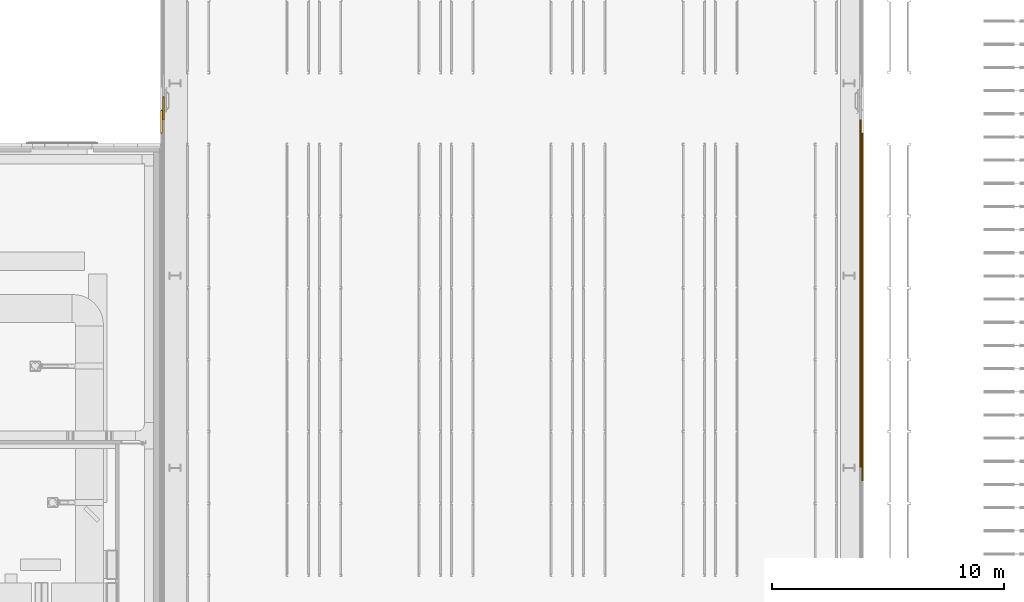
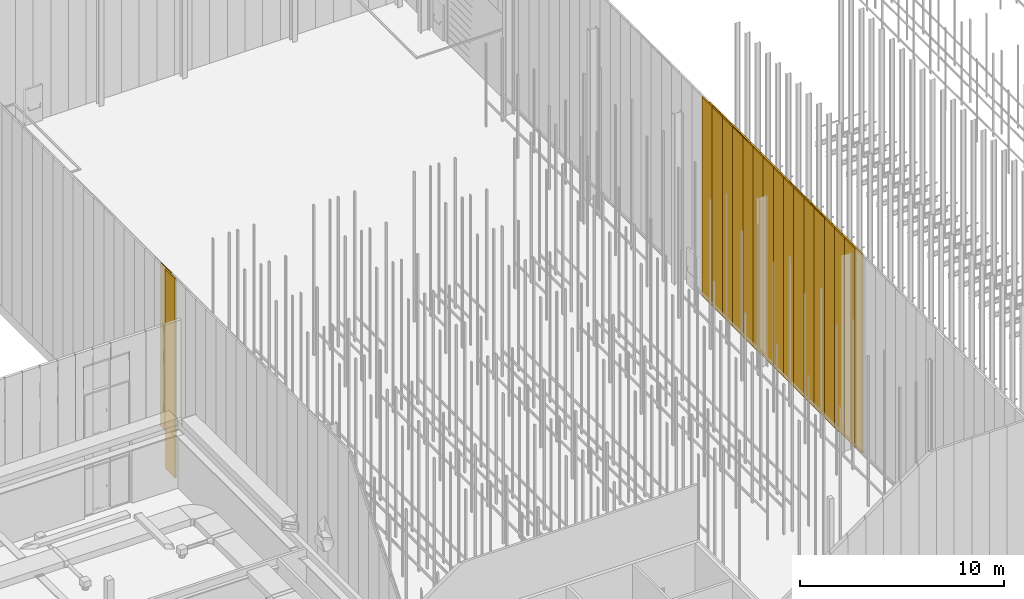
# One storey, part 241 of 302: 32 curtain walls, 2 openings, 4 elements without a shape of their own.
"""IFC2X3 building model written with IfcOpenShell, lengths in metres."""

from ifc_helpers import new_model, entity, si_unit, converted_unit, derived_unit, direction, frame, frame_2d, origin, origin_2d_with_axis, place, context, subcontext, project, spatial, rectangle, extrude, material, layer, layer_set, layer_usage, type_object, element, aggregate, save


model = new_model("IFC2X3")

# Units and contexts
model_context = context("Model", 3, precision=1e-05, world=origin(), true_north=direction((6.12303176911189e-17, 1.0)))
body_context = subcontext(model_context, "Body", "Model", "MODEL_VIEW")
ifc_project = project(units=[si_unit("LENGTHUNIT", "METRE"), si_unit("AREAUNIT", "SQUARE_METRE"), si_unit("VOLUMEUNIT", "CUBIC_METRE"), converted_unit("PLANEANGLEUNIT", "DEGREE", entity("IfcRatioMeasure", 0.0174532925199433), si_unit("PLANEANGLEUNIT", "RADIAN"), dimensions=[0, 0, 0, 0, 0, 0, 0]), si_unit("MASSUNIT", "GRAM", prefix="KILO"), derived_unit("MASSDENSITYUNIT", [(si_unit("MASSUNIT", "GRAM", prefix="KILO"), 1), (si_unit("LENGTHUNIT", "METRE"), -3)]), derived_unit("MOMENTOFINERTIAUNIT", [(si_unit("LENGTHUNIT", "METRE"), 4)]), si_unit("TIMEUNIT", "SECOND"), si_unit("FREQUENCYUNIT", "HERTZ"), si_unit("THERMODYNAMICTEMPERATUREUNIT", "DEGREE_CELSIUS"), derived_unit("THERMALTRANSMITTANCEUNIT", [(si_unit("MASSUNIT", "GRAM", prefix="KILO"), 1), (si_unit("THERMODYNAMICTEMPERATUREUNIT", "KELVIN"), -1), (si_unit("TIMEUNIT", "SECOND"), -3)]), derived_unit("VOLUMETRICFLOWRATEUNIT", [(si_unit("LENGTHUNIT", "METRE"), 3), (si_unit("TIMEUNIT", "SECOND"), -1)]), si_unit("ELECTRICCURRENTUNIT", "AMPERE"), si_unit("ELECTRICVOLTAGEUNIT", "VOLT"), si_unit("POWERUNIT", "WATT"), si_unit("FORCEUNIT", "NEWTON", prefix="KILO"), si_unit("ILLUMINANCEUNIT", "LUX"), si_unit("LUMINOUSFLUXUNIT", "LUMEN"), si_unit("LUMINOUSINTENSITYUNIT", "CANDELA"), derived_unit("USERDEFINED", [(si_unit("MASSUNIT", "GRAM", prefix="KILO"), -1), (si_unit("LENGTHUNIT", "METRE"), -2), (si_unit("TIMEUNIT", "SECOND"), 3), (si_unit("LUMINOUSFLUXUNIT", "LUMEN"), 1)]), derived_unit("LINEARVELOCITYUNIT", [(si_unit("LENGTHUNIT", "METRE"), 1), (si_unit("TIMEUNIT", "SECOND"), -1)]), si_unit("PRESSUREUNIT", "PASCAL"), derived_unit("USERDEFINED", [(si_unit("LENGTHUNIT", "METRE"), -2), (si_unit("MASSUNIT", "GRAM", prefix="KILO"), 1), (si_unit("TIMEUNIT", "SECOND"), -2)]), derived_unit("LINEARFORCEUNIT", [(si_unit("MASSUNIT", "GRAM", prefix="KILO"), 1), (si_unit("LENGTHUNIT", "METRE"), 1), (si_unit("TIMEUNIT", "SECOND"), -2), (si_unit("LENGTHUNIT", "METRE"), -1)]), derived_unit("PLANARFORCEUNIT", [(si_unit("MASSUNIT", "GRAM", prefix="KILO"), 1), (si_unit("LENGTHUNIT", "METRE"), 1), (si_unit("TIMEUNIT", "SECOND"), -2), (si_unit("LENGTHUNIT", "METRE"), -2)])], contexts=[model_context])

# Site, building, storey
site_placement = place(None, origin())
site = spatial("IfcSite", under=ifc_project, at=site_placement, Name="Default", CompositionType="ELEMENT")
building_placement = place(site_placement, origin())
building = spatial("IfcBuilding", under=site, at=building_placement, CompositionType="ELEMENT")
storey_placement = place(building_placement, frame((0.0, 0.0, -1.3)))
storey = spatial("IfcBuildingStorey", under=building, at=storey_placement, Name="00_EG", CompositionType="ELEMENT", Elevation=-1.3)

# Curtain walls, opening
curtain_wall_type_1 = type_object("IfcCurtainWallType", PredefinedType="NOTDEFINED")
curtain_wall_1_placement = place(storey_placement, frame((0.0, 0.0, 1.3)))
curtain_wall_1 = element("IfcCurtainWall", 1, at=curtain_wall_1_placement, inside=storey, type_object=curtain_wall_type_1)
ifc_material_1 = material(Name="Prepainted_Steel-ArcelorMittal_Construction_HAIRULTRA-35-CORAL-4309-[RAL_3000]")
ifc_layer_1 = layer(ifc_material_1, 0.01)
ifc_material_2 = material(Name="ArcelorMittal-MineralWool")
ifc_layer_2 = layer(ifc_material_2, 0.06)
ifc_layer_3 = layer(ifc_material_1, 0.01)
ifc_layer_set_1 = layer_set([ifc_layer_1, ifc_layer_2, ifc_layer_3], Name="Fassade:Sandwichpaneele Gebäude B 80mm")
ifc_layer_usage_1 = layer_usage(ifc_layer_set_1, "AXIS2", "NEGATIVE", 0.04)
curtain_wall_type_2 = type_object("IfcCurtainWallType", Name="Basiswand:Sandwichpaneele d = 8cm aussen", PredefinedType="NOTDEFINED", material=ifc_layer_set_1)
curtain_wall_2_placement = place(storey_placement, frame((-207.570111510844, 47.1680889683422, 1.27), z_axis=(0.0, 0.0, 1.0), x_axis=(0.0, -1.0, 0.0)))
curtain_wall_2 = element("IfcCurtainWall", 2, at=curtain_wall_2_placement, type_object=curtain_wall_type_2, material=ifc_layer_usage_1, Name="Basiswand:Sandwichpaneele d = 8cm aussen", ObjectType="Basiswand:Sandwichpaneele d = 8cm aussen", context=body_context, shape_type="SweptSolid", body=[
    extrude(rectangle(XDim=0.999999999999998, YDim=0.0799999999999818, at=frame_2d((0.499999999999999, 0.0), x_axis=(-1.0, 0.0))), origin(), (0.0, 0.0, 1.0), 11.9314),
])
opening_1_placement = place(curtain_wall_2_placement, origin())
opening_1 = element("IfcOpeningElement", 3, at=opening_1_placement, cuts=curtain_wall_2, Name="Basiswand:Sandwichpaneele d = 8cm aussen", ObjectType="Opening", context=body_context, shape_type="SweptSolid", body=[
    extrude(rectangle(XDim=2.16999999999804, YDim=0.979999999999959, at=frame_2d((-5.55111512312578e-16, 2.60069743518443e-14), x_axis=(1.0, 0.0))), frame((-0.410000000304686, -0.0400000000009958, 1.054999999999), z_axis=(0.0, 1.0, 0.0), x_axis=(0.0, 0.0, -1.0)), (0.0, 0.0, 1.0), 0.169999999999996),
])
aggregate(curtain_wall_1, [curtain_wall_2, opening_1])

# Curtain walls
curtain_wall_3_placement = place(storey_placement, frame((0.0, 0.0, 1.3)))
curtain_wall_3 = element("IfcCurtainWall", 4, at=curtain_wall_3_placement, inside=storey, type_object=curtain_wall_type_1)
ifc_layer_usage_2 = layer_usage(ifc_layer_set_1, "AXIS2", "POSITIVE", -0.04)
curtain_wall_4_placement = place(storey_placement, frame((-177.310111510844, 46.1680889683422, 1.27), z_axis=(0.0, 0.0, 1.0), x_axis=(0.0, -1.0, 0.0)))
curtain_wall_4 = element("IfcCurtainWall", 5, at=curtain_wall_4_placement, type_object=curtain_wall_type_2, material=ifc_layer_usage_2, Name="Basiswand:Sandwichpaneele d = 8cm aussen", ObjectType="Basiswand:Sandwichpaneele d = 8cm aussen", context=body_context, shape_type="SweptSolid", body=[
    extrude(rectangle(XDim=0.999999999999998, YDim=0.0799999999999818, at=frame_2d((0.499999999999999, 0.0), x_axis=(-1.0, 0.0))), origin(), (0.0, 0.0, 1.0), 11.9314),
])
ifc_layer_usage_3 = layer_usage(ifc_layer_set_1, "AXIS2", "POSITIVE", -0.04)
curtain_wall_5_placement = place(storey_placement, frame((-177.310111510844, 45.1680889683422, 1.27), z_axis=(0.0, 0.0, 1.0), x_axis=(0.0, -1.0, 0.0)))
curtain_wall_5 = element("IfcCurtainWall", 6, at=curtain_wall_5_placement, type_object=curtain_wall_type_2, material=ifc_layer_usage_3, Name="Basiswand:Sandwichpaneele d = 8cm aussen", ObjectType="Basiswand:Sandwichpaneele d = 8cm aussen", context=body_context, shape_type="SweptSolid", body=[
    extrude(rectangle(XDim=0.999999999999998, YDim=0.0799999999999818, at=frame_2d((0.499999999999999, 0.0), x_axis=(-1.0, 0.0))), origin(), (0.0, 0.0, 1.0), 11.9314),
])
ifc_layer_usage_4 = layer_usage(ifc_layer_set_1, "AXIS2", "POSITIVE", -0.04)
curtain_wall_6_placement = place(storey_placement, frame((-177.310111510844, 44.1680889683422, 1.27), z_axis=(0.0, 0.0, 1.0), x_axis=(0.0, -1.0, 0.0)))
curtain_wall_6 = element("IfcCurtainWall", 7, at=curtain_wall_6_placement, type_object=curtain_wall_type_2, material=ifc_layer_usage_4, Name="Basiswand:Sandwichpaneele d = 8cm aussen", ObjectType="Basiswand:Sandwichpaneele d = 8cm aussen", context=body_context, shape_type="SweptSolid", body=[
    extrude(rectangle(XDim=0.999999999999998, YDim=0.0799999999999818, at=frame_2d((0.499999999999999, 0.0), x_axis=(-1.0, 0.0))), origin(), (0.0, 0.0, 1.0), 11.9314),
])
ifc_layer_usage_5 = layer_usage(ifc_layer_set_1, "AXIS2", "POSITIVE", -0.04)
curtain_wall_7_placement = place(storey_placement, frame((-177.310111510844, 43.1680889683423, 1.27), z_axis=(0.0, 0.0, 1.0), x_axis=(0.0, -1.0, 0.0)))
curtain_wall_7 = element("IfcCurtainWall", 8, at=curtain_wall_7_placement, type_object=curtain_wall_type_2, material=ifc_layer_usage_5, Name="Basiswand:Sandwichpaneele d = 8cm aussen", ObjectType="Basiswand:Sandwichpaneele d = 8cm aussen", context=body_context, shape_type="SweptSolid", body=[
    extrude(rectangle(XDim=0.999999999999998, YDim=0.0799999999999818, at=frame_2d((0.499999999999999, 0.0), x_axis=(-1.0, 0.0))), origin(), (0.0, 0.0, 1.0), 11.9314),
])
ifc_layer_usage_6 = layer_usage(ifc_layer_set_1, "AXIS2", "POSITIVE", -0.04)
curtain_wall_8_placement = place(storey_placement, frame((-177.310111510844, 42.1680889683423, 1.27), z_axis=(0.0, 0.0, 1.0), x_axis=(0.0, -1.0, 0.0)))
curtain_wall_8 = element("IfcCurtainWall", 9, at=curtain_wall_8_placement, type_object=curtain_wall_type_2, material=ifc_layer_usage_6, Name="Basiswand:Sandwichpaneele d = 8cm aussen", ObjectType="Basiswand:Sandwichpaneele d = 8cm aussen", context=body_context, shape_type="SweptSolid", body=[
    extrude(rectangle(XDim=1.00000000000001, YDim=0.0799999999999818, at=frame_2d((0.500000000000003, 0.0), x_axis=(-1.0, 0.0))), origin(), (0.0, 0.0, 1.0), 11.9314),
])
ifc_layer_usage_7 = layer_usage(ifc_layer_set_1, "AXIS2", "POSITIVE", -0.04)
curtain_wall_9_placement = place(storey_placement, frame((-177.310111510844, 41.1680889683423, 1.27), z_axis=(0.0, 0.0, 1.0), x_axis=(0.0, -1.0, 0.0)))
curtain_wall_9 = element("IfcCurtainWall", 10, at=curtain_wall_9_placement, type_object=curtain_wall_type_2, material=ifc_layer_usage_7, Name="Basiswand:Sandwichpaneele d = 8cm aussen", ObjectType="Basiswand:Sandwichpaneele d = 8cm aussen", context=body_context, shape_type="SweptSolid", body=[
    extrude(rectangle(XDim=0.999999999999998, YDim=0.0799999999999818, at=frame_2d((0.499999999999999, 0.0), x_axis=(-1.0, 0.0))), origin(), (0.0, 0.0, 1.0), 11.9314),
])
ifc_layer_usage_8 = layer_usage(ifc_layer_set_1, "AXIS2", "POSITIVE", -0.04)
curtain_wall_10_placement = place(storey_placement, frame((-177.310111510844, 40.1680889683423, 1.27), z_axis=(0.0, 0.0, 1.0), x_axis=(0.0, -1.0, 0.0)))
curtain_wall_10 = element("IfcCurtainWall", 11, at=curtain_wall_10_placement, type_object=curtain_wall_type_2, material=ifc_layer_usage_8, Name="Basiswand:Sandwichpaneele d = 8cm aussen", ObjectType="Basiswand:Sandwichpaneele d = 8cm aussen", context=body_context, shape_type="SweptSolid", body=[
    extrude(rectangle(XDim=0.999999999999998, YDim=0.0799999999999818, at=frame_2d((0.499999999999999, 0.0), x_axis=(-1.0, 0.0))), origin(), (0.0, 0.0, 1.0), 11.9314),
])
ifc_layer_usage_9 = layer_usage(ifc_layer_set_1, "AXIS2", "POSITIVE", -0.04)
curtain_wall_11_placement = place(storey_placement, frame((-177.310111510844, 39.1680889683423, 1.27), z_axis=(0.0, 0.0, 1.0), x_axis=(0.0, -1.0, 0.0)))
curtain_wall_11 = element("IfcCurtainWall", 12, at=curtain_wall_11_placement, type_object=curtain_wall_type_2, material=ifc_layer_usage_9, Name="Basiswand:Sandwichpaneele d = 8cm aussen", ObjectType="Basiswand:Sandwichpaneele d = 8cm aussen", context=body_context, shape_type="SweptSolid", body=[
    extrude(rectangle(XDim=0.999999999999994, YDim=0.0799999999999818, at=frame_2d((0.499999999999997, 0.0), x_axis=(-1.0, 0.0))), origin(), (0.0, 0.0, 1.0), 11.9314),
])
ifc_layer_usage_10 = layer_usage(ifc_layer_set_1, "AXIS2", "POSITIVE", -0.04)
curtain_wall_12_placement = place(storey_placement, frame((-177.310111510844, 38.1680889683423, 1.27), z_axis=(0.0, 0.0, 1.0), x_axis=(0.0, -1.0, 0.0)))
curtain_wall_12 = element("IfcCurtainWall", 13, at=curtain_wall_12_placement, type_object=curtain_wall_type_2, material=ifc_layer_usage_10, Name="Basiswand:Sandwichpaneele d = 8cm aussen", ObjectType="Basiswand:Sandwichpaneele d = 8cm aussen", context=body_context, shape_type="SweptSolid", body=[
    extrude(rectangle(XDim=1.0, YDim=0.0799999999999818, at=frame_2d((0.500000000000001, 0.0), x_axis=(-1.0, 0.0))), origin(), (0.0, 0.0, 1.0), 11.9314),
])
ifc_layer_usage_11 = layer_usage(ifc_layer_set_1, "AXIS2", "POSITIVE", -0.04)
curtain_wall_13_placement = place(storey_placement, frame((-177.310111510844, 37.1680889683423, 1.27), z_axis=(0.0, 0.0, 1.0), x_axis=(0.0, -1.0, 0.0)))
curtain_wall_13 = element("IfcCurtainWall", 14, at=curtain_wall_13_placement, type_object=curtain_wall_type_2, material=ifc_layer_usage_11, Name="Basiswand:Sandwichpaneele d = 8cm aussen", ObjectType="Basiswand:Sandwichpaneele d = 8cm aussen", context=body_context, shape_type="SweptSolid", body=[
    extrude(rectangle(XDim=1.0, YDim=0.0799999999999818, at=frame_2d((0.500000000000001, 0.0), x_axis=(-1.0, 0.0))), origin(), (0.0, 0.0, 1.0), 11.9314),
])
ifc_layer_usage_12 = layer_usage(ifc_layer_set_1, "AXIS2", "POSITIVE", -0.04)
curtain_wall_14_placement = place(storey_placement, frame((-177.310111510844, 36.1680889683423, 1.27), z_axis=(0.0, 0.0, 1.0), x_axis=(0.0, -1.0, 0.0)))
curtain_wall_14 = element("IfcCurtainWall", 15, at=curtain_wall_14_placement, type_object=curtain_wall_type_2, material=ifc_layer_usage_12, Name="Basiswand:Sandwichpaneele d = 8cm aussen", ObjectType="Basiswand:Sandwichpaneele d = 8cm aussen", context=body_context, shape_type="SweptSolid", body=[
    extrude(rectangle(XDim=0.999999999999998, YDim=0.0799999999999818, at=frame_2d((0.499999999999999, 0.0), x_axis=(-1.0, 0.0))), origin(), (0.0, 0.0, 1.0), 11.9314),
])
ifc_layer_usage_13 = layer_usage(ifc_layer_set_1, "AXIS2", "POSITIVE", -0.04)
curtain_wall_15_placement = place(storey_placement, frame((-177.310111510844, 35.1680889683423, 1.27), z_axis=(0.0, 0.0, 1.0), x_axis=(0.0, -1.0, 0.0)))
curtain_wall_15 = element("IfcCurtainWall", 16, at=curtain_wall_15_placement, type_object=curtain_wall_type_2, material=ifc_layer_usage_13, Name="Basiswand:Sandwichpaneele d = 8cm aussen", ObjectType="Basiswand:Sandwichpaneele d = 8cm aussen", context=body_context, shape_type="SweptSolid", body=[
    extrude(rectangle(XDim=0.999999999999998, YDim=0.0799999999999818, at=frame_2d((0.499999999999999, 0.0), x_axis=(-1.0, 0.0))), origin(), (0.0, 0.0, 1.0), 11.9314),
])
ifc_layer_usage_14 = layer_usage(ifc_layer_set_1, "AXIS2", "POSITIVE", -0.04)
curtain_wall_16_placement = place(storey_placement, frame((-177.310111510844, 34.1680889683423, 1.27), z_axis=(0.0, 0.0, 1.0), x_axis=(0.0, -1.0, 0.0)))
curtain_wall_16 = element("IfcCurtainWall", 17, at=curtain_wall_16_placement, type_object=curtain_wall_type_2, material=ifc_layer_usage_14, Name="Basiswand:Sandwichpaneele d = 8cm aussen", ObjectType="Basiswand:Sandwichpaneele d = 8cm aussen", context=body_context, shape_type="SweptSolid", body=[
    extrude(rectangle(XDim=0.999999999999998, YDim=0.0799999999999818, at=frame_2d((0.499999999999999, 0.0), x_axis=(-1.0, 0.0))), origin(), (0.0, 0.0, 1.0), 11.9314),
])
ifc_layer_usage_15 = layer_usage(ifc_layer_set_1, "AXIS2", "POSITIVE", -0.04)
curtain_wall_17_placement = place(storey_placement, frame((-177.310111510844, 33.1680889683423, 1.27), z_axis=(0.0, 0.0, 1.0), x_axis=(0.0, -1.0, 0.0)))
curtain_wall_17 = element("IfcCurtainWall", 18, at=curtain_wall_17_placement, type_object=curtain_wall_type_2, material=ifc_layer_usage_15, Name="Basiswand:Sandwichpaneele d = 8cm aussen", ObjectType="Basiswand:Sandwichpaneele d = 8cm aussen", context=body_context, shape_type="SweptSolid", body=[
    extrude(rectangle(XDim=0.999999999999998, YDim=0.0799999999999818, at=frame_2d((0.499999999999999, 0.0), x_axis=(-1.0, 0.0))), origin(), (0.0, 0.0, 1.0), 11.9314),
])
ifc_layer_usage_16 = layer_usage(ifc_layer_set_1, "AXIS2", "POSITIVE", -0.04)
curtain_wall_18_placement = place(storey_placement, frame((-177.310111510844, 32.1680889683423, 1.27), z_axis=(0.0, 0.0, 1.0), x_axis=(0.0, -1.0, 0.0)))
curtain_wall_18 = element("IfcCurtainWall", 19, at=curtain_wall_18_placement, type_object=curtain_wall_type_2, material=ifc_layer_usage_16, Name="Basiswand:Sandwichpaneele d = 8cm aussen", ObjectType="Basiswand:Sandwichpaneele d = 8cm aussen", context=body_context, shape_type="SweptSolid", body=[
    extrude(rectangle(XDim=1.00000000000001, YDim=0.0799999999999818, at=frame_2d((0.500000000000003, 0.0), x_axis=(-1.0, 0.0))), origin(), (0.0, 0.0, 1.0), 11.9314),
])
aggregate(curtain_wall_3, [curtain_wall_4, curtain_wall_5, curtain_wall_6, curtain_wall_7, curtain_wall_8, curtain_wall_9, curtain_wall_10, curtain_wall_11, curtain_wall_12, curtain_wall_13, curtain_wall_14, curtain_wall_15, curtain_wall_16, curtain_wall_17, curtain_wall_18])

# Curtain walls, opening
curtain_wall_type_3 = type_object("IfcCurtainWallType", PredefinedType="NOTDEFINED")
curtain_wall_19_placement = place(storey_placement, frame((0.0, 0.0, 1.3)))
curtain_wall_19 = element("IfcCurtainWall", 20, at=curtain_wall_19_placement, inside=storey, type_object=curtain_wall_type_3)
ifc_layer_4 = layer(ifc_material_1, 0.01)
ifc_layer_5 = layer(ifc_material_2, 0.04)
ifc_layer_6 = layer(ifc_material_1, 0.01)
ifc_layer_set_2 = layer_set([ifc_layer_4, ifc_layer_5, ifc_layer_6], Name="Fassade:Sandwichpaneele Gebäude B 60mm")
ifc_layer_usage_17 = layer_usage(ifc_layer_set_2, "AXIS2", "NEGATIVE", 0.03)
curtain_wall_type_4 = type_object("IfcCurtainWallType", Name="Basiswand:Sandwichpaneele d = 6cm aussen", PredefinedType="NOTDEFINED", material=ifc_layer_set_2)
curtain_wall_20_placement = place(storey_placement, frame((-207.490111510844, 46.7480889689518, 1.27), z_axis=(0.0, 0.0, 1.0), x_axis=(0.0, 1.0, 0.0)))
curtain_wall_20 = element("IfcCurtainWall", 21, at=curtain_wall_20_placement, type_object=curtain_wall_type_4, material=ifc_layer_usage_17, Name="Basiswand:Sandwichpaneele d = 6cm aussen", ObjectType="Basiswand:Sandwichpaneele d = 6cm aussen", context=body_context, shape_type="SweptSolid", body=[
    extrude(rectangle(XDim=0.999999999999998, YDim=0.0599999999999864, at=frame_2d((0.499999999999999, 0.0), x_axis=(-1.0, 0.0))), origin(), (0.0, 0.0, 1.0), 11.9314),
])
opening_2_placement = place(curtain_wall_20_placement, frame((-46.7480889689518, -207.490111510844, -1.27), z_axis=(0.0, 0.0, 1.0), x_axis=(0.0, -1.0, 0.0)))
element("IfcOpeningElement", 22, at=opening_2_placement, cuts=curtain_wall_20, Name="Basiswand:Sandwichpaneele d = 6cm aussen", ObjectType="Opening", context=body_context, shape_type="SweptSolid", body=[
    extrude(rectangle(XDim=2.16999999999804, YDim=0.980000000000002, at=origin_2d_with_axis()), frame((-207.440111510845, 47.578088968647, 2.324999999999), z_axis=(-1.0, 0.0, 0.0), x_axis=(0.0, 0.0, -1.0)), (0.0, 0.0, 1.0), 0.169999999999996),
])
aggregate(curtain_wall_19, [curtain_wall_20])

# Curtain walls
curtain_wall_21_placement = place(storey_placement, frame((0.0, 0.0, 1.3)))
curtain_wall_21 = element("IfcCurtainWall", 23, at=curtain_wall_21_placement, inside=storey, type_object=curtain_wall_type_3)
ifc_layer_usage_18 = layer_usage(ifc_layer_set_2, "AXIS2", "POSITIVE", -0.03)
curtain_wall_22_placement = place(storey_placement, frame((-177.390111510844, 31.7480889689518, 1.27), z_axis=(0.0, 0.0, 1.0), x_axis=(0.0, 1.0, 0.0)))
curtain_wall_22 = element("IfcCurtainWall", 24, at=curtain_wall_22_placement, type_object=curtain_wall_type_4, material=ifc_layer_usage_18, Name="Basiswand:Sandwichpaneele d = 6cm aussen", ObjectType="Basiswand:Sandwichpaneele d = 6cm aussen", context=body_context, shape_type="SweptSolid", body=[
    extrude(rectangle(XDim=0.999999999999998, YDim=0.0599999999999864, at=frame_2d((0.499999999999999, 0.0), x_axis=(-1.0, 0.0))), origin(), (0.0, 0.0, 1.0), 11.9314),
])
ifc_layer_usage_19 = layer_usage(ifc_layer_set_2, "AXIS2", "POSITIVE", -0.03)
curtain_wall_23_placement = place(storey_placement, frame((-177.390111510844, 32.7480889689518, 1.27), z_axis=(0.0, 0.0, 1.0), x_axis=(0.0, 1.0, 0.0)))
curtain_wall_23 = element("IfcCurtainWall", 25, at=curtain_wall_23_placement, type_object=curtain_wall_type_4, material=ifc_layer_usage_19, Name="Basiswand:Sandwichpaneele d = 6cm aussen", ObjectType="Basiswand:Sandwichpaneele d = 6cm aussen", context=body_context, shape_type="SweptSolid", body=[
    extrude(rectangle(XDim=1.0, YDim=0.0599999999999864, at=frame_2d((0.500000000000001, 0.0), x_axis=(-1.0, 0.0))), origin(), (0.0, 0.0, 1.0), 11.9314),
])
ifc_layer_usage_20 = layer_usage(ifc_layer_set_2, "AXIS2", "POSITIVE", -0.03)
curtain_wall_24_placement = place(storey_placement, frame((-177.390111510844, 33.7480889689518, 1.27), z_axis=(0.0, 0.0, 1.0), x_axis=(0.0, 1.0, 0.0)))
curtain_wall_24 = element("IfcCurtainWall", 26, at=curtain_wall_24_placement, type_object=curtain_wall_type_4, material=ifc_layer_usage_20, Name="Basiswand:Sandwichpaneele d = 6cm aussen", ObjectType="Basiswand:Sandwichpaneele d = 6cm aussen", context=body_context, shape_type="SweptSolid", body=[
    extrude(rectangle(XDim=0.999999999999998, YDim=0.0599999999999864, at=frame_2d((0.499999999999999, 0.0), x_axis=(-1.0, 0.0))), origin(), (0.0, 0.0, 1.0), 11.9314),
])
ifc_layer_usage_21 = layer_usage(ifc_layer_set_2, "AXIS2", "POSITIVE", -0.03)
curtain_wall_25_placement = place(storey_placement, frame((-177.390111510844, 34.7480889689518, 1.27), z_axis=(0.0, 0.0, 1.0), x_axis=(0.0, 1.0, 0.0)))
curtain_wall_25 = element("IfcCurtainWall", 27, at=curtain_wall_25_placement, type_object=curtain_wall_type_4, material=ifc_layer_usage_21, Name="Basiswand:Sandwichpaneele d = 6cm aussen", ObjectType="Basiswand:Sandwichpaneele d = 6cm aussen", context=body_context, shape_type="SweptSolid", body=[
    extrude(rectangle(XDim=0.999999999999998, YDim=0.0599999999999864, at=frame_2d((0.499999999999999, 0.0), x_axis=(-1.0, 0.0))), origin(), (0.0, 0.0, 1.0), 11.9314),
])
ifc_layer_usage_22 = layer_usage(ifc_layer_set_2, "AXIS2", "POSITIVE", -0.03)
curtain_wall_26_placement = place(storey_placement, frame((-177.390111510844, 35.7480889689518, 1.27), z_axis=(0.0, 0.0, 1.0), x_axis=(0.0, 1.0, 0.0)))
curtain_wall_26 = element("IfcCurtainWall", 28, at=curtain_wall_26_placement, type_object=curtain_wall_type_4, material=ifc_layer_usage_22, Name="Basiswand:Sandwichpaneele d = 6cm aussen", ObjectType="Basiswand:Sandwichpaneele d = 6cm aussen", context=body_context, shape_type="SweptSolid", body=[
    extrude(rectangle(XDim=1.0, YDim=0.0599999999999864, at=frame_2d((0.500000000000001, 0.0), x_axis=(-1.0, 0.0))), origin(), (0.0, 0.0, 1.0), 11.9314),
])
ifc_layer_usage_23 = layer_usage(ifc_layer_set_2, "AXIS2", "POSITIVE", -0.03)
curtain_wall_27_placement = place(storey_placement, frame((-177.390111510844, 36.7480889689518, 1.27), z_axis=(0.0, 0.0, 1.0), x_axis=(0.0, 1.0, 0.0)))
curtain_wall_27 = element("IfcCurtainWall", 29, at=curtain_wall_27_placement, type_object=curtain_wall_type_4, material=ifc_layer_usage_23, Name="Basiswand:Sandwichpaneele d = 6cm aussen", ObjectType="Basiswand:Sandwichpaneele d = 6cm aussen", context=body_context, shape_type="SweptSolid", body=[
    extrude(rectangle(XDim=1.0, YDim=0.0599999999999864, at=frame_2d((0.500000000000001, 0.0), x_axis=(-1.0, 0.0))), origin(), (0.0, 0.0, 1.0), 11.9314),
])
ifc_layer_usage_24 = layer_usage(ifc_layer_set_2, "AXIS2", "POSITIVE", -0.03)
curtain_wall_28_placement = place(storey_placement, frame((-177.390111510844, 37.7480889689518, 1.27), z_axis=(0.0, 0.0, 1.0), x_axis=(0.0, 1.0, 0.0)))
curtain_wall_28 = element("IfcCurtainWall", 30, at=curtain_wall_28_placement, type_object=curtain_wall_type_4, material=ifc_layer_usage_24, Name="Basiswand:Sandwichpaneele d = 6cm aussen", ObjectType="Basiswand:Sandwichpaneele d = 6cm aussen", context=body_context, shape_type="SweptSolid", body=[
    extrude(rectangle(XDim=0.999999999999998, YDim=0.0599999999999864, at=frame_2d((0.499999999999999, 0.0), x_axis=(-1.0, 0.0))), origin(), (0.0, 0.0, 1.0), 11.9314),
])
ifc_layer_usage_25 = layer_usage(ifc_layer_set_2, "AXIS2", "POSITIVE", -0.03)
curtain_wall_29_placement = place(storey_placement, frame((-177.390111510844, 38.7480889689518, 1.27), z_axis=(0.0, 0.0, 1.0), x_axis=(0.0, 1.0, 0.0)))
curtain_wall_29 = element("IfcCurtainWall", 31, at=curtain_wall_29_placement, type_object=curtain_wall_type_4, material=ifc_layer_usage_25, Name="Basiswand:Sandwichpaneele d = 6cm aussen", ObjectType="Basiswand:Sandwichpaneele d = 6cm aussen", context=body_context, shape_type="SweptSolid", body=[
    extrude(rectangle(XDim=0.999999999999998, YDim=0.0599999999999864, at=frame_2d((0.499999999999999, 0.0), x_axis=(-1.0, 0.0))), origin(), (0.0, 0.0, 1.0), 11.9314),
])
ifc_layer_usage_26 = layer_usage(ifc_layer_set_2, "AXIS2", "POSITIVE", -0.03)
curtain_wall_30_placement = place(storey_placement, frame((-177.390111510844, 39.7480889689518, 1.27), z_axis=(0.0, 0.0, 1.0), x_axis=(0.0, 1.0, 0.0)))
curtain_wall_30 = element("IfcCurtainWall", 32, at=curtain_wall_30_placement, type_object=curtain_wall_type_4, material=ifc_layer_usage_26, Name="Basiswand:Sandwichpaneele d = 6cm aussen", ObjectType="Basiswand:Sandwichpaneele d = 6cm aussen", context=body_context, shape_type="SweptSolid", body=[
    extrude(rectangle(XDim=1.00000000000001, YDim=0.0599999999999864, at=frame_2d((0.500000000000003, 0.0), x_axis=(-1.0, 0.0))), origin(), (0.0, 0.0, 1.0), 11.9314),
])
ifc_layer_usage_27 = layer_usage(ifc_layer_set_2, "AXIS2", "POSITIVE", -0.03)
curtain_wall_31_placement = place(storey_placement, frame((-177.390111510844, 40.7480889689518, 1.27), z_axis=(0.0, 0.0, 1.0), x_axis=(0.0, 1.0, 0.0)))
curtain_wall_31 = element("IfcCurtainWall", 33, at=curtain_wall_31_placement, type_object=curtain_wall_type_4, material=ifc_layer_usage_27, Name="Basiswand:Sandwichpaneele d = 6cm aussen", ObjectType="Basiswand:Sandwichpaneele d = 6cm aussen", context=body_context, shape_type="SweptSolid", body=[
    extrude(rectangle(XDim=0.999999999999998, YDim=0.0599999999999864, at=frame_2d((0.499999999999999, 0.0), x_axis=(-1.0, 0.0))), origin(), (0.0, 0.0, 1.0), 11.9314),
])
ifc_layer_usage_28 = layer_usage(ifc_layer_set_2, "AXIS2", "POSITIVE", -0.03)
curtain_wall_32_placement = place(storey_placement, frame((-177.390111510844, 41.7480889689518, 1.27), z_axis=(0.0, 0.0, 1.0), x_axis=(0.0, 1.0, 0.0)))
curtain_wall_32 = element("IfcCurtainWall", 34, at=curtain_wall_32_placement, type_object=curtain_wall_type_4, material=ifc_layer_usage_28, Name="Basiswand:Sandwichpaneele d = 6cm aussen", ObjectType="Basiswand:Sandwichpaneele d = 6cm aussen", context=body_context, shape_type="SweptSolid", body=[
    extrude(rectangle(XDim=0.999999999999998, YDim=0.0599999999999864, at=frame_2d((0.499999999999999, 0.0), x_axis=(-1.0, 0.0))), origin(), (0.0, 0.0, 1.0), 11.9314),
])
ifc_layer_usage_29 = layer_usage(ifc_layer_set_2, "AXIS2", "POSITIVE", -0.03)
curtain_wall_33_placement = place(storey_placement, frame((-177.390111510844, 42.7480889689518, 1.27), z_axis=(0.0, 0.0, 1.0), x_axis=(0.0, 1.0, 0.0)))
curtain_wall_33 = element("IfcCurtainWall", 35, at=curtain_wall_33_placement, type_object=curtain_wall_type_4, material=ifc_layer_usage_29, Name="Basiswand:Sandwichpaneele d = 6cm aussen", ObjectType="Basiswand:Sandwichpaneele d = 6cm aussen", context=body_context, shape_type="SweptSolid", body=[
    extrude(rectangle(XDim=0.999999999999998, YDim=0.0599999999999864, at=frame_2d((0.499999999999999, 0.0), x_axis=(-1.0, 0.0))), origin(), (0.0, 0.0, 1.0), 11.9314),
])
ifc_layer_usage_30 = layer_usage(ifc_layer_set_2, "AXIS2", "POSITIVE", -0.03)
curtain_wall_34_placement = place(storey_placement, frame((-177.390111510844, 43.7480889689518, 1.27), z_axis=(0.0, 0.0, 1.0), x_axis=(0.0, 1.0, 0.0)))
curtain_wall_34 = element("IfcCurtainWall", 36, at=curtain_wall_34_placement, type_object=curtain_wall_type_4, material=ifc_layer_usage_30, Name="Basiswand:Sandwichpaneele d = 6cm aussen", ObjectType="Basiswand:Sandwichpaneele d = 6cm aussen", context=body_context, shape_type="SweptSolid", body=[
    extrude(rectangle(XDim=0.999999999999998, YDim=0.0599999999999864, at=frame_2d((0.499999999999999, 0.0), x_axis=(-1.0, 0.0))), origin(), (0.0, 0.0, 1.0), 11.9314),
])
ifc_layer_usage_31 = layer_usage(ifc_layer_set_2, "AXIS2", "POSITIVE", -0.03)
curtain_wall_35_placement = place(storey_placement, frame((-177.390111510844, 44.7480889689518, 1.27), z_axis=(0.0, 0.0, 1.0), x_axis=(0.0, 1.0, 0.0)))
curtain_wall_35 = element("IfcCurtainWall", 37, at=curtain_wall_35_placement, type_object=curtain_wall_type_4, material=ifc_layer_usage_31, Name="Basiswand:Sandwichpaneele d = 6cm aussen", ObjectType="Basiswand:Sandwichpaneele d = 6cm aussen", context=body_context, shape_type="SweptSolid", body=[
    extrude(rectangle(XDim=0.999999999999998, YDim=0.0599999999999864, at=frame_2d((0.499999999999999, 0.0), x_axis=(-1.0, 0.0))), origin(), (0.0, 0.0, 1.0), 11.9314),
])
ifc_layer_usage_32 = layer_usage(ifc_layer_set_2, "AXIS2", "POSITIVE", -0.03)
curtain_wall_36_placement = place(storey_placement, frame((-177.390111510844, 45.7480889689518, 1.27), z_axis=(0.0, 0.0, 1.0), x_axis=(0.0, 1.0, 0.0)))
curtain_wall_36 = element("IfcCurtainWall", 38, at=curtain_wall_36_placement, type_object=curtain_wall_type_4, material=ifc_layer_usage_32, Name="Basiswand:Sandwichpaneele d = 6cm aussen", ObjectType="Basiswand:Sandwichpaneele d = 6cm aussen", context=body_context, shape_type="SweptSolid", body=[
    extrude(rectangle(XDim=0.999999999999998, YDim=0.0599999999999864, at=frame_2d((0.499999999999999, 0.0), x_axis=(-1.0, 0.0))), origin(), (0.0, 0.0, 1.0), 11.9314),
])
aggregate(curtain_wall_21, [curtain_wall_22, curtain_wall_23, curtain_wall_24, curtain_wall_25, curtain_wall_26, curtain_wall_27, curtain_wall_28, curtain_wall_29, curtain_wall_30, curtain_wall_31, curtain_wall_32, curtain_wall_33, curtain_wall_34, curtain_wall_35, curtain_wall_36])

save(model, "model.ifc")
